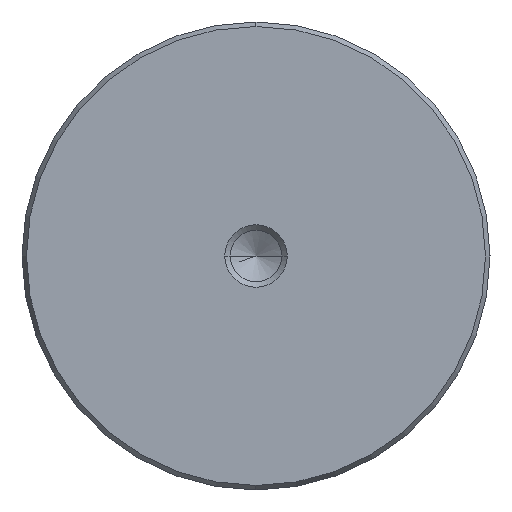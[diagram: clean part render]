
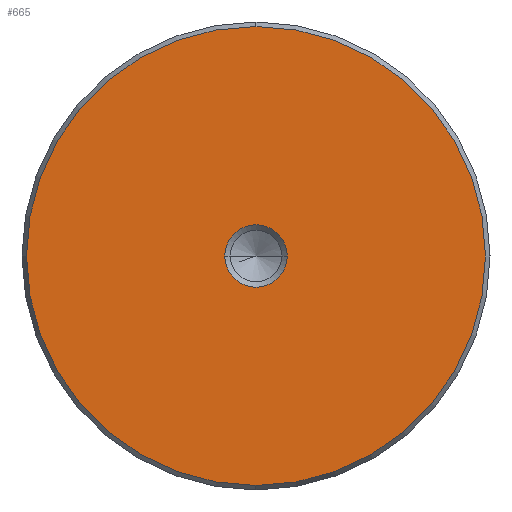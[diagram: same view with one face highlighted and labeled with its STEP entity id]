
A CAD part, left-side view. The second image highlights one B-rep face of the part: STEP entity #665.
In plain terms, the highlighted planar face has unit normal (-1, 0, 0).
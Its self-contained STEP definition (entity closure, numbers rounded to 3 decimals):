
#579=CARTESIAN_POINT('Vertex',(0.,0.,-29.423)) ;
#582=CARTESIAN_POINT('Axis2P3D Location',(0.,0.,0.)) ;
#586=CARTESIAN_POINT('Vertex',(0.,29.423,0.)) ;
#589=CARTESIAN_POINT('Axis2P3D Location',(0.,0.,0.)) ;
#593=CARTESIAN_POINT('Vertex',(0.,0.,29.423)) ;
#615=CARTESIAN_POINT('Axis2P3D Location',(0.,0.,0.)) ;
#619=CARTESIAN_POINT('Vertex',(0.,-29.423,0.)) ;
#622=CARTESIAN_POINT('Axis2P3D Location',(0.,0.,0.)) ;
#636=CARTESIAN_POINT('Axis2P3D Location',(0.,0.,0.)) ;
#647=CARTESIAN_POINT('Axis2P3D Location',(0.,0.,0.)) ;
#651=CARTESIAN_POINT('Vertex',(0.,4.,0.)) ;
#653=CARTESIAN_POINT('Vertex',(0.,-4.,0.)) ;
#656=CARTESIAN_POINT('Axis2P3D Location',(0.,0.,0.)) ;
#583=DIRECTION('Axis2P3D Direction',(1.,0.,-0.)) ;
#590=DIRECTION('Axis2P3D Direction',(1.,0.,-0.)) ;
#616=DIRECTION('Axis2P3D Direction',(1.,0.,-0.)) ;
#623=DIRECTION('Axis2P3D Direction',(1.,0.,-0.)) ;
#637=DIRECTION('Axis2P3D Direction',(1.,0.,-0.)) ;
#638=DIRECTION('Axis2P3D XDirection',(-0.,0.,-1.)) ;
#648=DIRECTION('Axis2P3D Direction',(1.,0.,-0.)) ;
#657=DIRECTION('Axis2P3D Direction',(1.,0.,-0.)) ;
#584=AXIS2_PLACEMENT_3D('Circle Axis2P3D',#582,#583,$) ;
#591=AXIS2_PLACEMENT_3D('Circle Axis2P3D',#589,#590,$) ;
#617=AXIS2_PLACEMENT_3D('Circle Axis2P3D',#615,#616,$) ;
#624=AXIS2_PLACEMENT_3D('Circle Axis2P3D',#622,#623,$) ;
#639=AXIS2_PLACEMENT_3D('Plane Axis2P3D',#636,#637,#638) ;
#649=AXIS2_PLACEMENT_3D('Circle Axis2P3D',#647,#648,$) ;
#658=AXIS2_PLACEMENT_3D('Circle Axis2P3D',#656,#657,$) ;
#642=ORIENTED_EDGE('',*,*,#588,.F.) ;
#643=ORIENTED_EDGE('',*,*,#626,.F.) ;
#644=ORIENTED_EDGE('',*,*,#621,.F.) ;
#645=ORIENTED_EDGE('',*,*,#595,.F.) ;
#662=ORIENTED_EDGE('',*,*,#655,.T.) ;
#663=ORIENTED_EDGE('',*,*,#660,.T.) ;
#664=FACE_BOUND('',#661,.T.) ;
#665=ADVANCED_FACE('720-60x450',(#646,#664),#640,.F.) ;
#585=CIRCLE('generated circle',#584,29.423) ;
#592=CIRCLE('generated circle',#591,29.423) ;
#618=CIRCLE('generated circle',#617,29.423) ;
#625=CIRCLE('generated circle',#624,29.423) ;
#650=CIRCLE('generated circle',#649,4.) ;
#659=CIRCLE('generated circle',#658,4.) ;
#588=EDGE_CURVE('',#580,#587,#585,.T.) ;
#595=EDGE_CURVE('',#587,#594,#592,.T.) ;
#621=EDGE_CURVE('',#594,#620,#618,.T.) ;
#626=EDGE_CURVE('',#620,#580,#625,.T.) ;
#655=EDGE_CURVE('',#652,#654,#650,.T.) ;
#660=EDGE_CURVE('',#654,#652,#659,.T.) ;
#641=EDGE_LOOP('',(#642,#643,#644,#645)) ;
#661=EDGE_LOOP('',(#662,#663)) ;
#646=FACE_OUTER_BOUND('',#641,.T.) ;
#640=PLANE('Plane',#639) ;
#580=VERTEX_POINT('',#579) ;
#587=VERTEX_POINT('',#586) ;
#594=VERTEX_POINT('',#593) ;
#620=VERTEX_POINT('',#619) ;
#652=VERTEX_POINT('',#651) ;
#654=VERTEX_POINT('',#653) ;
